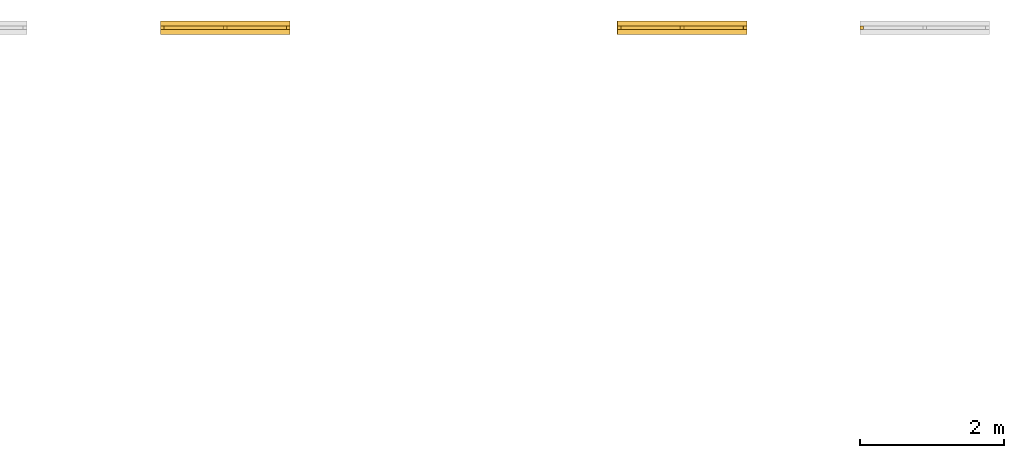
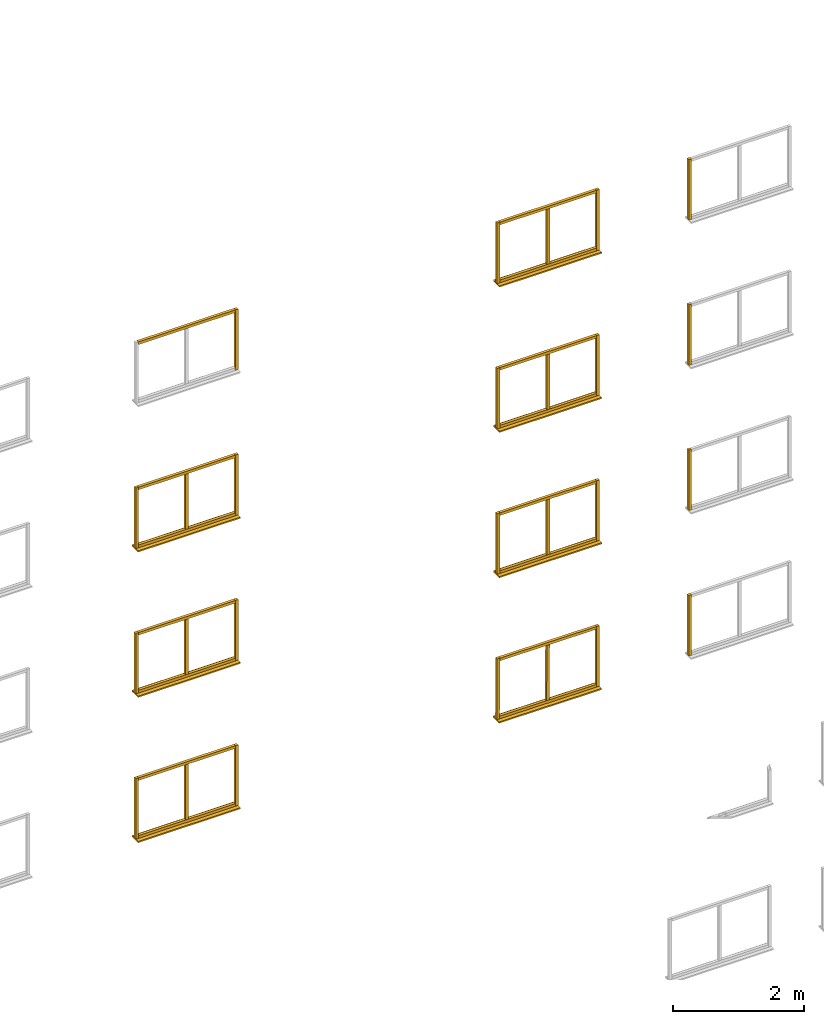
# Not in any storey, part 9 of 22: 48 windows.
"""IFC2X3 model written with IfcOpenShell, lengths in metres."""

import ifcopenshell
import ifcopenshell.guid

model = None  # the IFC model being written
_history = None  # IfcOwnerHistory: only IFC2X3 demands one
_inside = {}  # id of a spatial element -> (the spatial element, [elements in it])
_under = {}  # id of a project, library or spatial element -> (it, [spatial elements below it])
_declared = {}  # id of a project -> (the project, [libraries it declares])
_typed = {}  # id of a type object -> (the type object, [elements of that type])
_made_of = {}  # id of a material, layer set ... -> (it, [elements and type objects made of it])


def new_model(schema):
    """Start an empty IFC model of exactly this schema.

    Asked for "IFC4X3", IfcOpenShell would pick the latest addendum, in which some entities
    have other attributes; the version numbers below select the first issue.
    IFC2X3 requires an IfcOwnerHistory on every rooted entity: one is made here for all.
    """
    global model, _history
    if schema == "IFC4X3":
        model = ifcopenshell.file(schema_version=(4, 3, 0, 0))
    else:
        model = ifcopenshell.file(schema=schema)
    _inside.clear()
    _under.clear()
    _declared.clear()
    _typed.clear()
    _made_of.clear()
    _history = None
    if model.schema == "IFC2X3":
        org = make("IfcOrganization", Name="unknown")
        user = make(
            "IfcPersonAndOrganization",
            ThePerson=make("IfcPerson", FamilyName="unknown"),
            TheOrganization=org,
        )
        app = make(
            "IfcApplication",
            ApplicationDeveloper=org,
            Version="unknown",
            ApplicationFullName="unknown",
            ApplicationIdentifier="unknown",
        )
        _history = make(
            "IfcOwnerHistory",
            OwningUser=user,
            OwningApplication=app,
            ChangeAction="ADDED",
            CreationDate=0,
        )
    return model


def make(cls, **values):
    """One entity of the class cls with the attributes given. An attribute that is None is left unset."""
    return model.create_entity(
        cls, **{name: value for name, value in values.items() if value is not None}
    )


def rooted(cls, **values):
    """An entity with a GlobalId (a new one), such as an element, a storey or a relation."""
    return make(cls, GlobalId=ifcopenshell.guid.new(), OwnerHistory=_history, **values)


def si_unit(unit_type, name, prefix=None):
    """IfcSIUnit, for example si_unit("LENGTHUNIT", "METRE", prefix="MILLI")."""
    return make("IfcSIUnit", UnitType=unit_type, Prefix=prefix, Name=name)


def assignment(units):
    """IfcUnitAssignment: the units of a project."""
    return None if units is None else make("IfcUnitAssignment", Units=units)


def point(xyz):
    """IfcCartesianPoint."""
    return None if xyz is None else make("IfcCartesianPoint", Coordinates=xyz)


def direction(xyz):
    """IfcDirection."""
    return None if xyz is None else make("IfcDirection", DirectionRatios=xyz)


def frame(location, z_axis=None, x_axis=None):
    """IfcAxis2Placement3D, a coordinate frame: its origin and axes. An axis left out is left unset."""
    return make(
        "IfcAxis2Placement3D",
        Location=point(location),
        Axis=direction(z_axis),
        RefDirection=direction(x_axis),
    )


def origin():
    """The frame at (0, 0, 0) with its axes left unset."""
    return frame((0.0, 0.0, 0.0))


def place(relative_to, where):
    """IfcLocalPlacement: puts the frame where relative to a parent placement (None: the world)."""
    return make(
        "IfcLocalPlacement", PlacementRelTo=relative_to, RelativePlacement=where
    )


def context(
    kind, dimensions, precision=None, world=None, true_north=None, identifier=None
):
    """IfcGeometricRepresentationContext, for example the 3D "Model" context."""
    return make(
        "IfcGeometricRepresentationContext",
        ContextIdentifier=identifier,
        ContextType=kind,
        CoordinateSpaceDimension=dimensions,
        Precision=precision,
        WorldCoordinateSystem=world,
        TrueNorth=true_north,
    )


def project(units=None, contexts=None):
    """IfcProject with its units and contexts."""
    return rooted(
        "IfcProject",
        Name="project",
        RepresentationContexts=contexts,
        UnitsInContext=assignment(units),
    )


def faces_of(points, faces, orient=None, outer=None):
    """IfcFace entities. A face is a list of loops; a loop is a list of indices into points, from 0.

    orient and outer hold one flag for each loop. By default every Orientation is true, the
    first loop of a face is its IfcFaceOuterBound and the others are IfcFaceBound.
    """
    made = []
    for i, loops in enumerate(faces):
        bounds = []
        for j, loop in enumerate(loops):
            is_outer = j == 0 if outer is None else outer[i][j]
            bounds.append(
                make(
                    "IfcFaceOuterBound" if is_outer else "IfcFaceBound",
                    Bound=make("IfcPolyLoop", Polygon=[points[k] for k in loop]),
                    Orientation=True if orient is None else orient[i][j],
                )
            )
        made.append(make("IfcFace", Bounds=bounds))
    return made


def faceted_brep(points, faces, orient=None, outer=None, voids=None):
    """IfcFacetedBrep: a solid bounded by flat faces; with voids (closed shells), ...WithVoids."""
    shared = [point(p) for p in points]
    hull = make("IfcClosedShell", CfsFaces=faces_of(shared, faces, orient, outer))
    if voids is None:
        return make("IfcFacetedBrep", Outer=hull)
    return make(
        "IfcFacetedBrepWithVoids",
        Outer=hull,
        Voids=[
            make(cls, CfsFaces=faces_of(shared, fs, o, b)) for cls, fs, o, b in voids
        ],
    )


def shape(context_of_items, identifier, shape_type, items):
    """IfcShapeRepresentation: the items that make up one representation, for example the "Body"."""
    return make(
        "IfcShapeRepresentation",
        ContextOfItems=context_of_items,
        RepresentationIdentifier=identifier,
        RepresentationType=shape_type,
        Items=items,
    )


def made_of(thing, what):
    """Note that an element or type object is made of a material, layer set ...; save() writes the relation."""
    if what is not None:
        _made_of.setdefault(what.id(), (what, []))[1].append(thing)
    return thing


def element(
    cls,
    number,
    at=None,
    inside=None,
    cuts=None,
    type_object=None,
    material=None,
    context=None,
    identifier="Body",
    shape_type=None,
    held_by="IfcProductDefinitionShape",
    body=None,
    shapes=None,
    **own,
):
    """One element of the class cls, such as IfcWall. Its Tag is "e" and its number.

    at: its placement. inside: the storey or other place that contains it. cuts: it is an
    opening in that element (IfcRelVoidsElement). A single representation is given by context,
    identifier, shape_type and body (its items); several are given by shapes. held_by: the class
    of the entity that holds the representations. save() writes the other relations.
    """
    e = rooted(cls, Tag="e%d" % number, ObjectPlacement=at, **own)
    if body is not None:
        shapes = [shape(context, identifier, shape_type, body)]
    if shapes is not None:
        e.Representation = make(held_by, Representations=shapes)
    if inside is not None:
        _inside.setdefault(inside.id(), (inside, []))[1].append(e)
    if cuts is not None:
        rooted(
            "IfcRelVoidsElement", RelatingBuildingElement=cuts, RelatedOpeningElement=e
        )
    if type_object is not None:
        _typed.setdefault(type_object.id(), (type_object, []))[1].append(e)
    return made_of(e, material)


def aggregate(whole, parts):
    """IfcRelAggregates: a whole, such as a stair, and the parts it consists of."""
    return rooted("IfcRelAggregates", RelatingObject=whole, RelatedObjects=parts)


def save(model, path):
    """Write the relations noted so far, then the file.

    IfcRelAggregates (storeys below a building ...), IfcRelContainedInSpatialStructure (elements
    in a storey), IfcRelDefinesByType, IfcRelAssociatesMaterial and IfcRelDeclares: one each for
    every whole, place, type object, material and project.
    """
    for whole, parts in _under.values():
        aggregate(whole, parts)
    for where, things in _inside.values():
        rooted(
            "IfcRelContainedInSpatialStructure",
            RelatedElements=things,
            RelatingStructure=where,
        )
    for kind, things in _typed.values():
        rooted("IfcRelDefinesByType", RelatedObjects=things, RelatingType=kind)
    for what, things in _made_of.values():
        rooted("IfcRelAssociatesMaterial", RelatedObjects=things, RelatingMaterial=what)
    for by, libraries in _declared.values():
        rooted("IfcRelDeclares", RelatingContext=by, RelatedDefinitions=libraries)
    model.write(path)


model = new_model("IFC2X3")

# Units and contexts
model_context = context("Model", 3, precision=1e-06, world=origin())
ifc_project = project(units=[si_unit("LENGTHUNIT", "METRE"), si_unit("PLANEANGLEUNIT", "RADIAN")], contexts=[model_context])

# Windows
placement = place(None, origin())
window_1_placement = place(placement, frame((19.065401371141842, 10.657077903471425, 9.100000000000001), z_axis=(0.0, 0.0, 1.0), x_axis=(-1.0, 0.0, 0.0)))
element("IfcWindow", 1, at=window_1_placement, Name="windowSill", context=model_context, shape_type="Brep", body=[
    faceted_brep([(0.0, 0.186999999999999, 0.0), (1.8, 0.186999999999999, 0.0), (1.8, 0.0, 0.0), (0.0, 0.0, 0.0), (1.8, 0.0, 0.025), (1.8, 0.186999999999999, 0.025), (0.0, 0.186999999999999, 0.025), (0.0, 0.0, 0.025), (0.0, 0.186999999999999, 0.0), (0.0, 0.0, 0.0), (0.0, 0.0, 0.025), (0.0, 0.186999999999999, 0.025), (1.8, 0.186999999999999, 0.0), (0.0, 0.186999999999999, 0.0), (0.0, 0.186999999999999, 0.025), (1.8, 0.186999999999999, 0.025), (1.8, 0.0, 0.0), (1.8, 0.186999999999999, 0.0), (1.8, 0.186999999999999, 0.025), (1.8, 0.0, 0.025), (0.0, 0.0, 0.0), (1.8, 0.0, 0.0), (1.8, 0.0, 0.025), (0.0, 0.0, 0.025)], [[[0, 1, 2, 3]], [[4, 5, 6, 7]], [[8, 9, 10, 11]], [[12, 13, 14, 15]], [[16, 17, 18, 19]], [[20, 21, 22, 23]]]),
])
window_2_placement = place(placement, frame((19.065401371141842, 10.588577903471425, 9.125000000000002), z_axis=(0.0, 0.0, 1.0), x_axis=(-1.0, 0.0, 0.0)))
element("IfcWindow", 2, at=window_2_placement, Name="leftFrame", context=model_context, shape_type="Brep", body=[
    faceted_brep([(0.0, 0.05, 0.0), (0.05, 0.05, 0.0), (0.05, 0.0, 0.0), (0.0, 0.0, 0.0), (0.05, 0.0, 1.125), (0.05, 0.05, 1.125), (0.0, 0.05, 1.125), (0.0, 0.0, 1.125), (0.0, 0.05, 0.0), (0.0, 0.0, 0.0), (0.0, 0.0, 1.125), (0.0, 0.05, 1.125), (0.05, 0.05, 0.0), (0.0, 0.05, 0.0), (0.0, 0.05, 1.125), (0.05, 0.05, 1.125), (0.05, 0.0, 0.0), (0.05, 0.05, 0.0), (0.05, 0.05, 1.125), (0.05, 0.0, 1.125), (0.0, 0.0, 0.0), (0.05, 0.0, 0.0), (0.05, 0.0, 1.125), (0.0, 0.0, 1.125)], [[[0, 1, 2, 3]], [[4, 5, 6, 7]], [[8, 9, 10, 11]], [[12, 13, 14, 15]], [[16, 17, 18, 19]], [[20, 21, 22, 23]]]),
])
window_3_placement = place(placement, frame((19.01540137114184, 10.588577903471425, 9.125000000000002), z_axis=(0.0, 0.0, 1.0), x_axis=(-1.0, 0.0, 0.0)))
element("IfcWindow", 3, at=window_3_placement, Name="bottomFrame", context=model_context, shape_type="Brep", body=[
    faceted_brep([(0.0, 0.05, 0.0), (1.7, 0.05, 0.0), (1.7, 0.0, 0.0), (0.0, 0.0, 0.0), (1.7, 0.0, 0.05), (1.7, 0.05, 0.05), (0.0, 0.05, 0.05), (0.0, 0.0, 0.05), (0.0, 0.05, 0.0), (0.0, 0.0, 0.0), (0.0, 0.0, 0.05), (0.0, 0.05, 0.05), (1.7, 0.05, 0.0), (0.0, 0.05, 0.0), (0.0, 0.05, 0.05), (1.7, 0.05, 0.05), (1.7, 0.0, 0.0), (1.7, 0.05, 0.0), (1.7, 0.05, 0.05), (1.7, 0.0, 0.05), (0.0, 0.0, 0.0), (1.7, 0.0, 0.0), (1.7, 0.0, 0.05), (0.0, 0.0, 0.05)], [[[0, 1, 2, 3]], [[4, 5, 6, 7]], [[8, 9, 10, 11]], [[12, 13, 14, 15]], [[16, 17, 18, 19]], [[20, 21, 22, 23]]]),
])
for number, where, z_axis, x_axis, name in (
    (4, (17.315401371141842, 10.588577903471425, 9.125000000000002), (0.0, 0.0, 1.0), (-1.0, 0.0, 0.0), "rightFrame"),
    (5, (20.68540137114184, 10.588577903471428, 9.125000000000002), (0.0, 0.0, 1.0), (-1.0, 0.0, 0.0), "rightFrame"),
    (6, (12.714598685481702, 10.588577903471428, 9.125000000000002), (0.0, 0.0, 1.0), (-1.0, 0.0, 0.0), "leftFrame"),
):
    element("IfcWindow", number, at=place(placement, frame(where, z_axis=z_axis, x_axis=x_axis)), Name=name, context=model_context, shape_type="Brep", body=[
        faceted_brep([(0.0, 0.05, 0.0), (0.05, 0.05, 0.0), (0.05, 0.0, 0.0), (0.0, 0.0, 0.0), (0.05, 0.0, 1.125), (0.05, 0.05, 1.125), (0.0, 0.05, 1.125), (0.0, 0.0, 1.125), (0.0, 0.05, 0.0), (0.0, 0.0, 0.0), (0.0, 0.0, 1.125), (0.0, 0.05, 1.125), (0.05, 0.05, 0.0), (0.0, 0.05, 0.0), (0.0, 0.05, 1.125), (0.05, 0.05, 1.125), (0.05, 0.0, 0.0), (0.05, 0.05, 0.0), (0.05, 0.05, 1.125), (0.05, 0.0, 1.125), (0.0, 0.0, 0.0), (0.05, 0.0, 0.0), (0.05, 0.0, 1.125), (0.0, 0.0, 1.125)], [[[0, 1, 2, 3]], [[4, 5, 6, 7]], [[8, 9, 10, 11]], [[12, 13, 14, 15]], [[16, 17, 18, 19]], [[20, 21, 22, 23]]]),
    ])
for number, where, z_axis, x_axis, name in (
    (7, (19.01540137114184, 10.588577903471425, 10.200000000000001), (0.0, 0.0, 1.0), (-1.0, 0.0, 0.0), "topFrame"),
    (8, (19.01540137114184, 10.588577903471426, 7.5), (0.0, 0.0, 1.0), (-1.0, 0.0, 0.0), "topFrame"),
    (9, (12.664598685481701, 10.588577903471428, 10.200000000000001), (0.0, 0.0, 1.0), (-1.0, 0.0, 0.0), "topFrame"),
    (10, (12.664598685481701, 10.588577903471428, 4.8), (0.0, 0.0, 1.0), (-1.0, 0.0, 0.0), "topFrame"),
):
    element("IfcWindow", number, at=place(placement, frame(where, z_axis=z_axis, x_axis=x_axis)), Name=name, context=model_context, shape_type="Brep", body=[
        faceted_brep([(0.0, 0.05, 0.0), (1.7, 0.05, 0.0), (1.7, 0.0, 0.0), (0.0, 0.0, 0.0), (1.7, 0.0, 0.05), (1.7, 0.05, 0.05), (0.0, 0.05, 0.05), (0.0, 0.0, 0.05), (0.0, 0.05, 0.0), (0.0, 0.0, 0.0), (0.0, 0.0, 0.05), (0.0, 0.05, 0.05), (1.7, 0.05, 0.0), (0.0, 0.05, 0.0), (0.0, 0.05, 0.05), (1.7, 0.05, 0.05), (1.7, 0.0, 0.0), (1.7, 0.05, 0.0), (1.7, 0.05, 0.05), (1.7, 0.0, 0.05), (0.0, 0.0, 0.0), (1.7, 0.0, 0.0), (1.7, 0.0, 0.05), (0.0, 0.0, 0.05)], [[[0, 1, 2, 3]], [[4, 5, 6, 7]], [[8, 9, 10, 11]], [[12, 13, 14, 15]], [[16, 17, 18, 19]], [[20, 21, 22, 23]]]),
    ])
window_4_placement = place(placement, frame((20.68540137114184, 10.588577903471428, 3.725), z_axis=(0.0, 0.0, 1.0), x_axis=(-1.0, 0.0, 0.0)))
element("IfcWindow", 11, at=window_4_placement, Name="rightFrame", context=model_context, shape_type="Brep", body=[
    faceted_brep([(0.0, 0.05, 0.0), (0.05, 0.05, 0.0), (0.05, 0.0, 0.0), (0.0, 0.0, 0.0), (0.05, 0.0, 1.125), (0.05, 0.05, 1.125), (0.0, 0.05, 1.125), (0.0, 0.0, 1.125), (0.0, 0.05, 0.0), (0.0, 0.0, 0.0), (0.0, 0.0, 1.125), (0.0, 0.05, 1.125), (0.05, 0.05, 0.0), (0.0, 0.05, 0.0), (0.0, 0.05, 1.125), (0.05, 0.05, 1.125), (0.05, 0.0, 0.0), (0.05, 0.05, 0.0), (0.05, 0.05, 1.125), (0.05, 0.0, 1.125), (0.0, 0.0, 0.0), (0.05, 0.0, 0.0), (0.05, 0.0, 1.125), (0.0, 0.0, 1.125)], [[[0, 1, 2, 3]], [[4, 5, 6, 7]], [[8, 9, 10, 11]], [[12, 13, 14, 15]], [[16, 17, 18, 19]], [[20, 21, 22, 23]]]),
])
window_5_placement = place(placement, frame((19.01540137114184, 10.588577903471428, 4.8), z_axis=(0.0, 0.0, 1.0), x_axis=(-1.0, 0.0, 0.0)))
element("IfcWindow", 12, at=window_5_placement, Name="topFrame", context=model_context, shape_type="Brep", body=[
    faceted_brep([(0.0, 0.05, 0.0), (1.7, 0.05, 0.0), (1.7, 0.0, 0.0), (0.0, 0.0, 0.0), (1.7, 0.0, 0.05), (1.7, 0.05, 0.05), (0.0, 0.05, 0.05), (0.0, 0.0, 0.05), (0.0, 0.05, 0.0), (0.0, 0.0, 0.0), (0.0, 0.0, 0.05), (0.0, 0.05, 0.05), (1.7, 0.05, 0.0), (0.0, 0.05, 0.0), (0.0, 0.05, 0.05), (1.7, 0.05, 0.05), (1.7, 0.0, 0.0), (1.7, 0.05, 0.0), (1.7, 0.05, 0.05), (1.7, 0.0, 0.05), (0.0, 0.0, 0.0), (1.7, 0.0, 0.0), (1.7, 0.0, 0.05), (0.0, 0.0, 0.05)], [[[0, 1, 2, 3]], [[4, 5, 6, 7]], [[8, 9, 10, 11]], [[12, 13, 14, 15]], [[16, 17, 18, 19]], [[20, 21, 22, 23]]]),
])
window_6_placement = place(placement, frame((12.714598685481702, 10.657077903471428, 1.0), z_axis=(0.0, 0.0, 1.0), x_axis=(-1.0, 0.0, 0.0)))
element("IfcWindow", 13, at=window_6_placement, Name="windowSill", context=model_context, shape_type="Brep", body=[
    faceted_brep([(0.0, 0.187, 0.0), (1.8, 0.187, 0.0), (1.8, 0.0, 0.0), (0.0, 0.0, 0.0), (1.8, 0.0, 0.025), (1.8, 0.187, 0.025), (0.0, 0.187, 0.025), (0.0, 0.0, 0.025), (0.0, 0.187, 0.0), (0.0, 0.0, 0.0), (0.0, 0.0, 0.025), (0.0, 0.187, 0.025), (1.8, 0.187, 0.0), (0.0, 0.187, 0.0), (0.0, 0.187, 0.025), (1.8, 0.187, 0.025), (1.8, 0.0, 0.0), (1.8, 0.187, 0.0), (1.8, 0.187, 0.025), (1.8, 0.0, 0.025), (0.0, 0.0, 0.0), (1.8, 0.0, 0.0), (1.8, 0.0, 0.025), (0.0, 0.0, 0.025)], [[[0, 1, 2, 3]], [[4, 5, 6, 7]], [[8, 9, 10, 11]], [[12, 13, 14, 15]], [[16, 17, 18, 19]], [[20, 21, 22, 23]]]),
])
window_7_placement = place(placement, frame((12.664598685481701, 10.588577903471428, 6.425000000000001), z_axis=(0.0, 0.0, 1.0), x_axis=(-1.0, 0.0, 0.0)))
element("IfcWindow", 14, at=window_7_placement, Name="bottomFrame", context=model_context, shape_type="Brep", body=[
    faceted_brep([(0.0, 0.05, 0.0), (1.7, 0.05, 0.0), (1.7, 0.0, 0.0), (0.0, 0.0, 0.0), (1.7, 0.0, 0.05), (1.7, 0.05, 0.05), (0.0, 0.05, 0.05), (0.0, 0.0, 0.05), (0.0, 0.05, 0.0), (0.0, 0.0, 0.0), (0.0, 0.0, 0.05), (0.0, 0.05, 0.05), (1.7, 0.05, 0.0), (0.0, 0.05, 0.0), (0.0, 0.05, 0.05), (1.7, 0.05, 0.05), (1.7, 0.0, 0.0), (1.7, 0.05, 0.0), (1.7, 0.05, 0.05), (1.7, 0.0, 0.05), (0.0, 0.0, 0.0), (1.7, 0.0, 0.0), (1.7, 0.0, 0.05), (0.0, 0.0, 0.05)], [[[0, 1, 2, 3]], [[4, 5, 6, 7]], [[8, 9, 10, 11]], [[12, 13, 14, 15]], [[16, 17, 18, 19]], [[20, 21, 22, 23]]]),
])
window_8_placement = place(placement, frame((10.964598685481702, 10.588577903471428, 6.425000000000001), z_axis=(0.0, 0.0, 1.0), x_axis=(-1.0, 0.0, 0.0)))
element("IfcWindow", 15, at=window_8_placement, Name="rightFrame", context=model_context, shape_type="Brep", body=[
    faceted_brep([(0.0, 0.05, 0.0), (0.05, 0.05, 0.0), (0.05, 0.0, 0.0), (0.0, 0.0, 0.0), (0.05, 0.0, 1.125), (0.05, 0.05, 1.125), (0.0, 0.05, 1.125), (0.0, 0.0, 1.125), (0.0, 0.05, 0.0), (0.0, 0.0, 0.0), (0.0, 0.0, 1.125), (0.0, 0.05, 1.125), (0.05, 0.05, 0.0), (0.0, 0.05, 0.0), (0.0, 0.05, 1.125), (0.05, 0.05, 1.125), (0.05, 0.0, 0.0), (0.05, 0.05, 0.0), (0.05, 0.05, 1.125), (0.05, 0.0, 1.125), (0.0, 0.0, 0.0), (0.05, 0.0, 0.0), (0.05, 0.0, 1.125), (0.0, 0.0, 1.125)], [[[0, 1, 2, 3]], [[4, 5, 6, 7]], [[8, 9, 10, 11]], [[12, 13, 14, 15]], [[16, 17, 18, 19]], [[20, 21, 22, 23]]]),
])
window_9_placement = place(placement, frame((12.714598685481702, 10.657077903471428, 6.4), z_axis=(0.0, 0.0, 1.0), x_axis=(-1.0, 0.0, 0.0)))
element("IfcWindow", 16, at=window_9_placement, Name="windowSill", context=model_context, shape_type="Brep", body=[
    faceted_brep([(0.0, 0.187, 0.0), (1.8, 0.187, 0.0), (1.8, 0.0, 0.0), (0.0, 0.0, 0.0), (1.8, 0.0, 0.025), (1.8, 0.187, 0.025), (0.0, 0.187, 0.025), (0.0, 0.0, 0.025), (0.0, 0.187, 0.0), (0.0, 0.0, 0.0), (0.0, 0.0, 0.025), (0.0, 0.187, 0.025), (1.8, 0.187, 0.0), (0.0, 0.187, 0.0), (0.0, 0.187, 0.025), (1.8, 0.187, 0.025), (1.8, 0.0, 0.0), (1.8, 0.187, 0.0), (1.8, 0.187, 0.025), (1.8, 0.0, 0.025), (0.0, 0.0, 0.0), (1.8, 0.0, 0.0), (1.8, 0.0, 0.025), (0.0, 0.0, 0.025)], [[[0, 1, 2, 3]], [[4, 5, 6, 7]], [[8, 9, 10, 11]], [[12, 13, 14, 15]], [[16, 17, 18, 19]], [[20, 21, 22, 23]]]),
])
window_10_placement = place(placement, frame((11.839598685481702, 10.588577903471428, 6.475000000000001), z_axis=(0.0, 0.0, 1.0), x_axis=(-1.0, 0.0, 0.0)))
element("IfcWindow", 17, at=window_10_placement, Name="verticalBar", context=model_context, shape_type="Brep", body=[
    faceted_brep([(0.0, 0.05, 0.0), (0.05, 0.05, 0.0), (0.05, 0.0, 0.0), (0.0, 0.0, 0.0), (0.05, 0.0, 1.025), (0.05, 0.05, 1.025), (0.0, 0.05, 1.025), (0.0, 0.0, 1.025), (0.0, 0.05, 0.0), (0.0, 0.0, 0.0), (0.0, 0.0, 1.025), (0.0, 0.05, 1.025), (0.05, 0.05, 0.0), (0.0, 0.05, 0.0), (0.0, 0.05, 1.025), (0.05, 0.05, 1.025), (0.05, 0.0, 0.0), (0.05, 0.05, 0.0), (0.05, 0.05, 1.025), (0.05, 0.0, 1.025), (0.0, 0.0, 0.0), (0.05, 0.0, 0.0), (0.05, 0.0, 1.025), (0.0, 0.0, 1.025)], [[[0, 1, 2, 3]], [[4, 5, 6, 7]], [[8, 9, 10, 11]], [[12, 13, 14, 15]], [[16, 17, 18, 19]], [[20, 21, 22, 23]]]),
])
window_11_placement = place(placement, frame((12.664598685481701, 10.588577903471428, 7.5), z_axis=(0.0, 0.0, 1.0), x_axis=(-1.0, 0.0, 0.0)))
element("IfcWindow", 18, at=window_11_placement, Name="topFrame", context=model_context, shape_type="Brep", body=[
    faceted_brep([(0.0, 0.05, 0.0), (1.7, 0.05, 0.0), (1.7, 0.0, 0.0), (0.0, 0.0, 0.0), (1.7, 0.0, 0.05), (1.7, 0.05, 0.05), (0.0, 0.05, 0.05), (0.0, 0.0, 0.05), (0.0, 0.05, 0.0), (0.0, 0.0, 0.0), (0.0, 0.0, 0.05), (0.0, 0.05, 0.05), (1.7, 0.05, 0.0), (0.0, 0.05, 0.0), (0.0, 0.05, 0.05), (1.7, 0.05, 0.05), (1.7, 0.0, 0.0), (1.7, 0.05, 0.0), (1.7, 0.05, 0.05), (1.7, 0.0, 0.05), (0.0, 0.0, 0.0), (1.7, 0.0, 0.0), (1.7, 0.0, 0.05), (0.0, 0.0, 0.05)], [[[0, 1, 2, 3]], [[4, 5, 6, 7]], [[8, 9, 10, 11]], [[12, 13, 14, 15]], [[16, 17, 18, 19]], [[20, 21, 22, 23]]]),
])
for number, where, z_axis, x_axis, name in (
    (19, (12.714598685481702, 10.588577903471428, 6.425000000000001), (0.0, 0.0, 1.0), (-1.0, 0.0, 0.0), "leftFrame"),
    (20, (20.68540137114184, 10.588577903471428, 6.425000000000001), (0.0, 0.0, 1.0), (-1.0, 0.0, 0.0), "rightFrame"),
    (21, (17.315401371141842, 10.588577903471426, 6.425000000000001), (0.0, 0.0, 1.0), (-1.0, 0.0, 0.0), "rightFrame"),
):
    element("IfcWindow", number, at=place(placement, frame(where, z_axis=z_axis, x_axis=x_axis)), Name=name, context=model_context, shape_type="Brep", body=[
        faceted_brep([(0.0, 0.05, 0.0), (0.05, 0.05, 0.0), (0.05, 0.0, 0.0), (0.0, 0.0, 0.0), (0.05, 0.0, 1.125), (0.05, 0.05, 1.125), (0.0, 0.05, 1.125), (0.0, 0.0, 1.125), (0.0, 0.05, 0.0), (0.0, 0.0, 0.0), (0.0, 0.0, 1.125), (0.0, 0.05, 1.125), (0.05, 0.05, 0.0), (0.0, 0.05, 0.0), (0.0, 0.05, 1.125), (0.05, 0.05, 1.125), (0.05, 0.0, 0.0), (0.05, 0.05, 0.0), (0.05, 0.05, 1.125), (0.05, 0.0, 1.125), (0.0, 0.0, 0.0), (0.05, 0.0, 0.0), (0.05, 0.0, 1.125), (0.0, 0.0, 1.125)], [[[0, 1, 2, 3]], [[4, 5, 6, 7]], [[8, 9, 10, 11]], [[12, 13, 14, 15]], [[16, 17, 18, 19]], [[20, 21, 22, 23]]]),
    ])
window_12_placement = place(placement, frame((19.01540137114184, 10.588577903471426, 6.425000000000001), z_axis=(0.0, 0.0, 1.0), x_axis=(-1.0, 0.0, 0.0)))
element("IfcWindow", 22, at=window_12_placement, Name="bottomFrame", context=model_context, shape_type="Brep", body=[
    faceted_brep([(0.0, 0.05, 0.0), (1.7, 0.05, 0.0), (1.7, 0.0, 0.0), (0.0, 0.0, 0.0), (1.7, 0.0, 0.05), (1.7, 0.05, 0.05), (0.0, 0.05, 0.05), (0.0, 0.0, 0.05), (0.0, 0.05, 0.0), (0.0, 0.0, 0.0), (0.0, 0.0, 0.05), (0.0, 0.05, 0.05), (1.7, 0.05, 0.0), (0.0, 0.05, 0.0), (0.0, 0.05, 0.05), (1.7, 0.05, 0.05), (1.7, 0.0, 0.0), (1.7, 0.05, 0.0), (1.7, 0.05, 0.05), (1.7, 0.0, 0.05), (0.0, 0.0, 0.0), (1.7, 0.0, 0.0), (1.7, 0.0, 0.05), (0.0, 0.0, 0.05)], [[[0, 1, 2, 3]], [[4, 5, 6, 7]], [[8, 9, 10, 11]], [[12, 13, 14, 15]], [[16, 17, 18, 19]], [[20, 21, 22, 23]]]),
])
window_13_placement = place(placement, frame((19.065401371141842, 10.588577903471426, 6.425000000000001), z_axis=(0.0, 0.0, 1.0), x_axis=(-1.0, 0.0, 0.0)))
element("IfcWindow", 23, at=window_13_placement, Name="leftFrame", context=model_context, shape_type="Brep", body=[
    faceted_brep([(0.0, 0.05, 0.0), (0.05, 0.05, 0.0), (0.05, 0.0, 0.0), (0.0, 0.0, 0.0), (0.05, 0.0, 1.125), (0.05, 0.05, 1.125), (0.0, 0.05, 1.125), (0.0, 0.0, 1.125), (0.0, 0.05, 0.0), (0.0, 0.0, 0.0), (0.0, 0.0, 1.125), (0.0, 0.05, 1.125), (0.05, 0.05, 0.0), (0.0, 0.05, 0.0), (0.0, 0.05, 1.125), (0.05, 0.05, 1.125), (0.05, 0.0, 0.0), (0.05, 0.05, 0.0), (0.05, 0.05, 1.125), (0.05, 0.0, 1.125), (0.0, 0.0, 0.0), (0.05, 0.0, 0.0), (0.05, 0.0, 1.125), (0.0, 0.0, 1.125)], [[[0, 1, 2, 3]], [[4, 5, 6, 7]], [[8, 9, 10, 11]], [[12, 13, 14, 15]], [[16, 17, 18, 19]], [[20, 21, 22, 23]]]),
])
window_14_placement = place(placement, frame((19.065401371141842, 10.657077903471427, 6.4), z_axis=(0.0, 0.0, 1.0), x_axis=(-1.0, 0.0, 0.0)))
element("IfcWindow", 24, at=window_14_placement, Name="windowSill", context=model_context, shape_type="Brep", body=[
    faceted_brep([(0.0, 0.186999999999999, 0.0), (1.8, 0.186999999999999, 0.0), (1.8, 0.0, 0.0), (0.0, 0.0, 0.0), (1.8, 0.0, 0.025), (1.8, 0.186999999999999, 0.025), (0.0, 0.186999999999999, 0.025), (0.0, 0.0, 0.025), (0.0, 0.186999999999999, 0.0), (0.0, 0.0, 0.0), (0.0, 0.0, 0.025), (0.0, 0.186999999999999, 0.025), (1.8, 0.186999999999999, 0.0), (0.0, 0.186999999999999, 0.0), (0.0, 0.186999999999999, 0.025), (1.8, 0.186999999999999, 0.025), (1.8, 0.0, 0.0), (1.8, 0.186999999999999, 0.0), (1.8, 0.186999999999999, 0.025), (1.8, 0.0, 0.025), (0.0, 0.0, 0.0), (1.8, 0.0, 0.0), (1.8, 0.0, 0.025), (0.0, 0.0, 0.025)], [[[0, 1, 2, 3]], [[4, 5, 6, 7]], [[8, 9, 10, 11]], [[12, 13, 14, 15]], [[16, 17, 18, 19]], [[20, 21, 22, 23]]]),
])
window_15_placement = place(placement, frame((18.190401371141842, 10.588577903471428, 3.775), z_axis=(0.0, 0.0, 1.0), x_axis=(-1.0, 0.0, 0.0)))
element("IfcWindow", 25, at=window_15_placement, Name="verticalBar", context=model_context, shape_type="Brep", body=[
    faceted_brep([(0.0, 0.05, 0.0), (0.05, 0.05, 0.0), (0.05, 0.0, 0.0), (0.0, 0.0, 0.0), (0.05, 0.0, 1.025), (0.05, 0.05, 1.025), (0.0, 0.05, 1.025), (0.0, 0.0, 1.025), (0.0, 0.05, 0.0), (0.0, 0.0, 0.0), (0.0, 0.0, 1.025), (0.0, 0.05, 1.025), (0.05, 0.05, 0.0), (0.0, 0.05, 0.0), (0.0, 0.05, 1.025), (0.05, 0.05, 1.025), (0.05, 0.0, 0.0), (0.05, 0.05, 0.0), (0.05, 0.05, 1.025), (0.05, 0.0, 1.025), (0.0, 0.0, 0.0), (0.05, 0.0, 0.0), (0.05, 0.0, 1.025), (0.0, 0.0, 1.025)], [[[0, 1, 2, 3]], [[4, 5, 6, 7]], [[8, 9, 10, 11]], [[12, 13, 14, 15]], [[16, 17, 18, 19]], [[20, 21, 22, 23]]]),
])
window_16_placement = place(placement, frame((19.065401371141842, 10.588577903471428, 3.725), z_axis=(0.0, 0.0, 1.0), x_axis=(-1.0, 0.0, 0.0)))
element("IfcWindow", 26, at=window_16_placement, Name="leftFrame", context=model_context, shape_type="Brep", body=[
    faceted_brep([(0.0, 0.05, 0.0), (0.05, 0.05, 0.0), (0.05, 0.0, 0.0), (0.0, 0.0, 0.0), (0.05, 0.0, 1.125), (0.05, 0.05, 1.125), (0.0, 0.05, 1.125), (0.0, 0.0, 1.125), (0.0, 0.05, 0.0), (0.0, 0.0, 0.0), (0.0, 0.0, 1.125), (0.0, 0.05, 1.125), (0.05, 0.05, 0.0), (0.0, 0.05, 0.0), (0.0, 0.05, 1.125), (0.05, 0.05, 1.125), (0.05, 0.0, 0.0), (0.05, 0.05, 0.0), (0.05, 0.05, 1.125), (0.05, 0.0, 1.125), (0.0, 0.0, 0.0), (0.05, 0.0, 0.0), (0.05, 0.0, 1.125), (0.0, 0.0, 1.125)], [[[0, 1, 2, 3]], [[4, 5, 6, 7]], [[8, 9, 10, 11]], [[12, 13, 14, 15]], [[16, 17, 18, 19]], [[20, 21, 22, 23]]]),
])
window_17_placement = place(placement, frame((19.01540137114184, 10.588577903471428, 3.725), z_axis=(0.0, 0.0, 1.0), x_axis=(-1.0, 0.0, 0.0)))
element("IfcWindow", 27, at=window_17_placement, Name="bottomFrame", context=model_context, shape_type="Brep", body=[
    faceted_brep([(0.0, 0.05, 0.0), (1.7, 0.05, 0.0), (1.7, 0.0, 0.0), (0.0, 0.0, 0.0), (1.7, 0.0, 0.05), (1.7, 0.05, 0.05), (0.0, 0.05, 0.05), (0.0, 0.0, 0.05), (0.0, 0.05, 0.0), (0.0, 0.0, 0.0), (0.0, 0.0, 0.05), (0.0, 0.05, 0.05), (1.7, 0.05, 0.0), (0.0, 0.05, 0.0), (0.0, 0.05, 0.05), (1.7, 0.05, 0.05), (1.7, 0.0, 0.0), (1.7, 0.05, 0.0), (1.7, 0.05, 0.05), (1.7, 0.0, 0.05), (0.0, 0.0, 0.0), (1.7, 0.0, 0.0), (1.7, 0.0, 0.05), (0.0, 0.0, 0.05)], [[[0, 1, 2, 3]], [[4, 5, 6, 7]], [[8, 9, 10, 11]], [[12, 13, 14, 15]], [[16, 17, 18, 19]], [[20, 21, 22, 23]]]),
])
for number, where, z_axis, x_axis, name in (
    (28, (17.315401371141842, 10.588577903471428, 3.725), (0.0, 0.0, 1.0), (-1.0, 0.0, 0.0), "rightFrame"),
    (29, (12.714598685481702, 10.588577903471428, 3.725), (0.0, 0.0, 1.0), (-1.0, 0.0, 0.0), "leftFrame"),
):
    element("IfcWindow", number, at=place(placement, frame(where, z_axis=z_axis, x_axis=x_axis)), Name=name, context=model_context, shape_type="Brep", body=[
        faceted_brep([(0.0, 0.05, 0.0), (0.05, 0.05, 0.0), (0.05, 0.0, 0.0), (0.0, 0.0, 0.0), (0.05, 0.0, 1.125), (0.05, 0.05, 1.125), (0.0, 0.05, 1.125), (0.0, 0.0, 1.125), (0.0, 0.05, 0.0), (0.0, 0.0, 0.0), (0.0, 0.0, 1.125), (0.0, 0.05, 1.125), (0.05, 0.05, 0.0), (0.0, 0.05, 0.0), (0.0, 0.05, 1.125), (0.05, 0.05, 1.125), (0.05, 0.0, 0.0), (0.05, 0.05, 0.0), (0.05, 0.05, 1.125), (0.05, 0.0, 1.125), (0.0, 0.0, 0.0), (0.05, 0.0, 0.0), (0.05, 0.0, 1.125), (0.0, 0.0, 1.125)], [[[0, 1, 2, 3]], [[4, 5, 6, 7]], [[8, 9, 10, 11]], [[12, 13, 14, 15]], [[16, 17, 18, 19]], [[20, 21, 22, 23]]]),
    ])
window_18_placement = place(placement, frame((11.839598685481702, 10.588577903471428, 3.775), z_axis=(0.0, 0.0, 1.0), x_axis=(-1.0, 0.0, 0.0)))
element("IfcWindow", 30, at=window_18_placement, Name="verticalBar", context=model_context, shape_type="Brep", body=[
    faceted_brep([(0.0, 0.05, 0.0), (0.05, 0.05, 0.0), (0.05, 0.0, 0.0), (0.0, 0.0, 0.0), (0.05, 0.0, 1.025), (0.05, 0.05, 1.025), (0.0, 0.05, 1.025), (0.0, 0.0, 1.025), (0.0, 0.05, 0.0), (0.0, 0.0, 0.0), (0.0, 0.0, 1.025), (0.0, 0.05, 1.025), (0.05, 0.05, 0.0), (0.0, 0.05, 0.0), (0.0, 0.05, 1.025), (0.05, 0.05, 1.025), (0.05, 0.0, 0.0), (0.05, 0.05, 0.0), (0.05, 0.05, 1.025), (0.05, 0.0, 1.025), (0.0, 0.0, 0.0), (0.05, 0.0, 0.0), (0.05, 0.0, 1.025), (0.0, 0.0, 1.025)], [[[0, 1, 2, 3]], [[4, 5, 6, 7]], [[8, 9, 10, 11]], [[12, 13, 14, 15]], [[16, 17, 18, 19]], [[20, 21, 22, 23]]]),
])
window_19_placement = place(placement, frame((12.714598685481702, 10.657077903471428, 3.7), z_axis=(0.0, 0.0, 1.0), x_axis=(-1.0, 0.0, 0.0)))
element("IfcWindow", 31, at=window_19_placement, Name="windowSill", context=model_context, shape_type="Brep", body=[
    faceted_brep([(0.0, 0.187, 0.0), (1.8, 0.187, 0.0), (1.8, 0.0, 0.0), (0.0, 0.0, 0.0), (1.8, 0.0, 0.025), (1.8, 0.187, 0.025), (0.0, 0.187, 0.025), (0.0, 0.0, 0.025), (0.0, 0.187, 0.0), (0.0, 0.0, 0.0), (0.0, 0.0, 0.025), (0.0, 0.187, 0.025), (1.8, 0.187, 0.0), (0.0, 0.187, 0.0), (0.0, 0.187, 0.025), (1.8, 0.187, 0.025), (1.8, 0.0, 0.0), (1.8, 0.187, 0.0), (1.8, 0.187, 0.025), (1.8, 0.0, 0.025), (0.0, 0.0, 0.0), (1.8, 0.0, 0.0), (1.8, 0.0, 0.025), (0.0, 0.0, 0.025)], [[[0, 1, 2, 3]], [[4, 5, 6, 7]], [[8, 9, 10, 11]], [[12, 13, 14, 15]], [[16, 17, 18, 19]], [[20, 21, 22, 23]]]),
])
window_20_placement = place(placement, frame((10.964598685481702, 10.588577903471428, 3.725), z_axis=(0.0, 0.0, 1.0), x_axis=(-1.0, 0.0, 0.0)))
element("IfcWindow", 32, at=window_20_placement, Name="rightFrame", context=model_context, shape_type="Brep", body=[
    faceted_brep([(0.0, 0.05, 0.0), (0.05, 0.05, 0.0), (0.05, 0.0, 0.0), (0.0, 0.0, 0.0), (0.05, 0.0, 1.125), (0.05, 0.05, 1.125), (0.0, 0.05, 1.125), (0.0, 0.0, 1.125), (0.0, 0.05, 0.0), (0.0, 0.0, 0.0), (0.0, 0.0, 1.125), (0.0, 0.05, 1.125), (0.05, 0.05, 0.0), (0.0, 0.05, 0.0), (0.0, 0.05, 1.125), (0.05, 0.05, 1.125), (0.05, 0.0, 0.0), (0.05, 0.05, 0.0), (0.05, 0.05, 1.125), (0.05, 0.0, 1.125), (0.0, 0.0, 0.0), (0.05, 0.0, 0.0), (0.05, 0.0, 1.125), (0.0, 0.0, 1.125)], [[[0, 1, 2, 3]], [[4, 5, 6, 7]], [[8, 9, 10, 11]], [[12, 13, 14, 15]], [[16, 17, 18, 19]], [[20, 21, 22, 23]]]),
])
window_21_placement = place(placement, frame((18.190401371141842, 10.588577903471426, 6.475000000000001), z_axis=(0.0, 0.0, 1.0), x_axis=(-1.0, 0.0, 0.0)))
element("IfcWindow", 33, at=window_21_placement, Name="verticalBar", context=model_context, shape_type="Brep", body=[
    faceted_brep([(0.0, 0.05, 0.0), (0.05, 0.05, 0.0), (0.05, 0.0, 0.0), (0.0, 0.0, 0.0), (0.05, 0.0, 1.025), (0.05, 0.05, 1.025), (0.0, 0.05, 1.025), (0.0, 0.0, 1.025), (0.0, 0.05, 0.0), (0.0, 0.0, 0.0), (0.0, 0.0, 1.025), (0.0, 0.05, 1.025), (0.05, 0.05, 0.0), (0.0, 0.05, 0.0), (0.0, 0.05, 1.025), (0.05, 0.05, 1.025), (0.05, 0.0, 0.0), (0.05, 0.05, 0.0), (0.05, 0.05, 1.025), (0.05, 0.0, 1.025), (0.0, 0.0, 0.0), (0.05, 0.0, 0.0), (0.05, 0.0, 1.025), (0.0, 0.0, 1.025)], [[[0, 1, 2, 3]], [[4, 5, 6, 7]], [[8, 9, 10, 11]], [[12, 13, 14, 15]], [[16, 17, 18, 19]], [[20, 21, 22, 23]]]),
])
window_22_placement = place(placement, frame((19.015156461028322, 10.588577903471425, 2.092059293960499), z_axis=(0.004537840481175, 0.0, 0.999989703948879), x_axis=(-0.999989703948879, 0.0, 0.004537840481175)))
element("IfcWindow", 34, at=window_22_placement, Name="topFrame", context=model_context, shape_type="Brep", body=[
    faceted_brep([(0.0, 0.05, 0.0), (1.7, 0.05, 0.0), (1.7, 0.0, 0.0), (0.0, 0.0, 0.0), (1.7, 0.0, 0.05), (1.7, 0.05, 0.05), (0.0, 0.05, 0.05), (0.0, 0.0, 0.05), (0.0, 0.05, 0.0), (0.0, 0.0, 0.0), (0.0, 0.0, 0.05), (0.0, 0.05, 0.05), (1.7, 0.05, 0.0), (0.0, 0.05, 0.0), (0.0, 0.05, 0.05), (1.7, 0.05, 0.05), (1.7, 0.0, 0.0), (1.7, 0.05, 0.0), (1.7, 0.05, 0.05), (1.7, 0.0, 0.05), (0.0, 0.0, 0.0), (1.7, 0.0, 0.0), (1.7, 0.0, 0.05), (0.0, 0.0, 0.05)], [[[0, 1, 2, 3]], [[4, 5, 6, 7]], [[8, 9, 10, 11]], [[12, 13, 14, 15]], [[16, 17, 18, 19]], [[20, 21, 22, 23]]]),
])
for number, where, z_axis, x_axis, name in (
    (35, (20.68540137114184, 10.588577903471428, 1.025), (0.0, 0.0, 1.0), (-1.0, 0.0, 0.0), "rightFrame"),
    (36, (17.310295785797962, 10.588577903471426, 1.024784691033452), (0.004537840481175, 0.0, 0.999989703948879), (-0.999989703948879, 0.0, 0.004537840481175), "rightFrame"),
    (37, (19.060277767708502, 10.588577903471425, 1.016843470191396), (0.004537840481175, 0.0, 0.999989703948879), (-0.999989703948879, 0.0, 0.004537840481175), "leftFrame"),
):
    element("IfcWindow", number, at=place(placement, frame(where, z_axis=z_axis, x_axis=x_axis)), Name=name, context=model_context, shape_type="Brep", body=[
        faceted_brep([(0.0, 0.05, 0.0), (0.05, 0.05, 0.0), (0.05, 0.0, 0.0), (0.0, 0.0, 0.0), (0.05, 0.0, 1.125), (0.05, 0.05, 1.125), (0.0, 0.05, 1.125), (0.0, 0.0, 1.125), (0.0, 0.05, 0.0), (0.0, 0.0, 0.0), (0.0, 0.0, 1.125), (0.0, 0.05, 1.125), (0.05, 0.05, 0.0), (0.0, 0.05, 0.0), (0.0, 0.05, 1.125), (0.05, 0.05, 1.125), (0.05, 0.0, 0.0), (0.05, 0.05, 0.0), (0.05, 0.05, 1.125), (0.05, 0.0, 1.125), (0.0, 0.0, 0.0), (0.05, 0.0, 0.0), (0.05, 0.0, 1.125), (0.0, 0.0, 1.125)], [[[0, 1, 2, 3]], [[4, 5, 6, 7]], [[8, 9, 10, 11]], [[12, 13, 14, 15]], [[16, 17, 18, 19]], [[20, 21, 22, 23]]]),
    ])
window_23_placement = place(placement, frame((19.06016432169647, 10.657077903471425, 0.991843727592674), z_axis=(0.004537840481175, 0.0, 0.999989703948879), x_axis=(-0.999989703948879, 0.0, 0.004537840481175)))
element("IfcWindow", 38, at=window_23_placement, Name="windowSill", context=model_context, shape_type="Brep", body=[
    faceted_brep([(0.0, 0.186999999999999, 0.0), (1.8, 0.186999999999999, 0.0), (1.8, 0.0, 0.0), (0.0, 0.0, 0.0), (1.8, 0.0, 0.025), (1.8, 0.186999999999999, 0.025), (0.0, 0.186999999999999, 0.025), (0.0, 0.0, 0.025), (0.0, 0.186999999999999, 0.0), (0.0, 0.0, 0.0), (0.0, 0.0, 0.025), (0.0, 0.186999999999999, 0.025), (1.8, 0.186999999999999, 0.0), (0.0, 0.186999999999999, 0.0), (0.0, 0.186999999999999, 0.025), (1.8, 0.186999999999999, 0.025), (1.8, 0.0, 0.0), (1.8, 0.186999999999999, 0.0), (1.8, 0.186999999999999, 0.025), (1.8, 0.0, 0.025), (0.0, 0.0, 0.0), (1.8, 0.0, 0.0), (1.8, 0.0, 0.025), (0.0, 0.0, 0.025)], [[[0, 1, 2, 3]], [[4, 5, 6, 7]], [[8, 9, 10, 11]], [[12, 13, 14, 15]], [[16, 17, 18, 19]], [[20, 21, 22, 23]]]),
])
window_24_placement = place(placement, frame((10.964598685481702, 10.588577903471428, 1.025), z_axis=(0.0, 0.0, 1.0), x_axis=(-1.0, 0.0, 0.0)))
element("IfcWindow", 39, at=window_24_placement, Name="rightFrame", context=model_context, shape_type="Brep", body=[
    faceted_brep([(0.0, 0.05, 0.0), (0.05, 0.05, 0.0), (0.05, 0.0, 0.0), (0.0, 0.0, 0.0), (0.05, 0.0, 1.125), (0.05, 0.05, 1.125), (0.0, 0.05, 1.125), (0.0, 0.0, 1.125), (0.0, 0.05, 0.0), (0.0, 0.0, 0.0), (0.0, 0.0, 1.125), (0.0, 0.05, 1.125), (0.05, 0.05, 0.0), (0.0, 0.05, 0.0), (0.0, 0.05, 1.125), (0.05, 0.05, 1.125), (0.05, 0.0, 0.0), (0.05, 0.05, 0.0), (0.05, 0.05, 1.125), (0.05, 0.0, 1.125), (0.0, 0.0, 0.0), (0.05, 0.0, 0.0), (0.05, 0.0, 1.125), (0.0, 0.0, 1.125)], [[[0, 1, 2, 3]], [[4, 5, 6, 7]], [[8, 9, 10, 11]], [[12, 13, 14, 15]], [[16, 17, 18, 19]], [[20, 21, 22, 23]]]),
])
window_25_placement = place(placement, frame((12.664598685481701, 10.588577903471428, 1.025), z_axis=(0.0, 0.0, 1.0), x_axis=(-1.0, 0.0, 0.0)))
element("IfcWindow", 40, at=window_25_placement, Name="bottomFrame", context=model_context, shape_type="Brep", body=[
    faceted_brep([(0.0, 0.05, 0.0), (1.7, 0.05, 0.0), (1.7, 0.0, 0.0), (0.0, 0.0, 0.0), (1.7, 0.0, 0.05), (1.7, 0.05, 0.05), (0.0, 0.05, 0.05), (0.0, 0.0, 0.05), (0.0, 0.05, 0.0), (0.0, 0.0, 0.0), (0.0, 0.0, 0.05), (0.0, 0.05, 0.05), (1.7, 0.05, 0.0), (0.0, 0.05, 0.0), (0.0, 0.05, 0.05), (1.7, 0.05, 0.05), (1.7, 0.0, 0.0), (1.7, 0.05, 0.0), (1.7, 0.05, 0.05), (1.7, 0.0, 0.05), (0.0, 0.0, 0.0), (1.7, 0.0, 0.0), (1.7, 0.0, 0.05), (0.0, 0.0, 0.05)], [[[0, 1, 2, 3]], [[4, 5, 6, 7]], [[8, 9, 10, 11]], [[12, 13, 14, 15]], [[16, 17, 18, 19]], [[20, 21, 22, 23]]]),
])
window_26_placement = place(placement, frame((11.839598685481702, 10.588577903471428, 1.075), z_axis=(0.0, 0.0, 1.0), x_axis=(-1.0, 0.0, 0.0)))
element("IfcWindow", 41, at=window_26_placement, Name="verticalBar", context=model_context, shape_type="Brep", body=[
    faceted_brep([(0.0, 0.05, 0.0), (0.05, 0.05, 0.0), (0.05, 0.0, 0.0), (0.0, 0.0, 0.0), (0.05, 0.0, 1.025), (0.05, 0.05, 1.025), (0.0, 0.05, 1.025), (0.0, 0.0, 1.025), (0.0, 0.05, 0.0), (0.0, 0.0, 0.0), (0.0, 0.0, 1.025), (0.0, 0.05, 1.025), (0.05, 0.05, 0.0), (0.0, 0.05, 0.0), (0.0, 0.05, 1.025), (0.05, 0.05, 1.025), (0.05, 0.0, 0.0), (0.05, 0.05, 0.0), (0.05, 0.05, 1.025), (0.05, 0.0, 1.025), (0.0, 0.0, 0.0), (0.05, 0.0, 0.0), (0.05, 0.0, 1.025), (0.0, 0.0, 1.025)], [[[0, 1, 2, 3]], [[4, 5, 6, 7]], [[8, 9, 10, 11]], [[12, 13, 14, 15]], [[16, 17, 18, 19]], [[20, 21, 22, 23]]]),
])
window_27_placement = place(placement, frame((12.664598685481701, 10.588577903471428, 2.1), z_axis=(0.0, 0.0, 1.0), x_axis=(-1.0, 0.0, 0.0)))
element("IfcWindow", 42, at=window_27_placement, Name="topFrame", context=model_context, shape_type="Brep", body=[
    faceted_brep([(0.0, 0.05, 0.0), (1.7, 0.05, 0.0), (1.7, 0.0, 0.0), (0.0, 0.0, 0.0), (1.7, 0.0, 0.05), (1.7, 0.05, 0.05), (0.0, 0.05, 0.05), (0.0, 0.0, 0.05), (0.0, 0.05, 0.0), (0.0, 0.0, 0.0), (0.0, 0.0, 0.05), (0.0, 0.05, 0.05), (1.7, 0.05, 0.0), (0.0, 0.05, 0.0), (0.0, 0.05, 0.05), (1.7, 0.05, 0.05), (1.7, 0.0, 0.0), (1.7, 0.05, 0.0), (1.7, 0.05, 0.05), (1.7, 0.0, 0.05), (0.0, 0.0, 0.0), (1.7, 0.0, 0.0), (1.7, 0.0, 0.05), (0.0, 0.0, 0.05)], [[[0, 1, 2, 3]], [[4, 5, 6, 7]], [[8, 9, 10, 11]], [[12, 13, 14, 15]], [[16, 17, 18, 19]], [[20, 21, 22, 23]]]),
])
window_28_placement = place(placement, frame((12.714598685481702, 10.588577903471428, 1.025), z_axis=(0.0, 0.0, 1.0), x_axis=(-1.0, 0.0, 0.0)))
element("IfcWindow", 43, at=window_28_placement, Name="leftFrame", context=model_context, shape_type="Brep", body=[
    faceted_brep([(0.0, 0.05, 0.0), (0.05, 0.05, 0.0), (0.05, 0.0, 0.0), (0.0, 0.0, 0.0), (0.05, 0.0, 1.125), (0.05, 0.05, 1.125), (0.0, 0.05, 1.125), (0.0, 0.0, 1.125), (0.0, 0.05, 0.0), (0.0, 0.0, 0.0), (0.0, 0.0, 1.125), (0.0, 0.05, 1.125), (0.05, 0.05, 0.0), (0.0, 0.05, 0.0), (0.0, 0.05, 1.125), (0.05, 0.05, 1.125), (0.05, 0.0, 0.0), (0.05, 0.05, 0.0), (0.05, 0.05, 1.125), (0.05, 0.0, 1.125), (0.0, 0.0, 0.0), (0.05, 0.0, 0.0), (0.05, 0.0, 1.125), (0.0, 0.0, 1.125)], [[[0, 1, 2, 3]], [[4, 5, 6, 7]], [[8, 9, 10, 11]], [[12, 13, 14, 15]], [[16, 17, 18, 19]], [[20, 21, 22, 23]]]),
])
window_29_placement = place(placement, frame((19.065401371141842, 10.657077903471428, 3.7), z_axis=(0.0, 0.0, 1.0), x_axis=(-1.0, 0.0, 0.0)))
element("IfcWindow", 44, at=window_29_placement, Name="windowSill", context=model_context, shape_type="Brep", body=[
    faceted_brep([(0.0, 0.186999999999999, 0.0), (1.8, 0.186999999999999, 0.0), (1.8, 0.0, 0.0), (0.0, 0.0, 0.0), (1.8, 0.0, 0.025), (1.8, 0.186999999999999, 0.025), (0.0, 0.186999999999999, 0.025), (0.0, 0.0, 0.025), (0.0, 0.186999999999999, 0.0), (0.0, 0.0, 0.0), (0.0, 0.0, 0.025), (0.0, 0.186999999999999, 0.025), (1.8, 0.186999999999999, 0.0), (0.0, 0.186999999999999, 0.0), (0.0, 0.186999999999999, 0.025), (1.8, 0.186999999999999, 0.025), (1.8, 0.0, 0.0), (1.8, 0.186999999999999, 0.0), (1.8, 0.186999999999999, 0.025), (1.8, 0.0, 0.025), (0.0, 0.0, 0.0), (1.8, 0.0, 0.0), (1.8, 0.0, 0.025), (0.0, 0.0, 0.025)], [[[0, 1, 2, 3]], [[4, 5, 6, 7]], [[8, 9, 10, 11]], [[12, 13, 14, 15]], [[16, 17, 18, 19]], [[20, 21, 22, 23]]]),
])
window_30_placement = place(placement, frame((19.01027828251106, 10.588577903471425, 1.017070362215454), z_axis=(0.004537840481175, 0.0, 0.999989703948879), x_axis=(-0.999989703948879, 0.0, 0.004537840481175)))
element("IfcWindow", 45, at=window_30_placement, Name="bottomFrame", context=model_context, shape_type="Brep", body=[
    faceted_brep([(0.0, 0.05, 0.0), (1.7, 0.05, 0.0), (1.7, 0.0, 0.0), (0.0, 0.0, 0.0), (1.7, 0.0, 0.05), (1.7, 0.05, 0.05), (0.0, 0.05, 0.05), (0.0, 0.0, 0.05), (0.0, 0.05, 0.0), (0.0, 0.0, 0.0), (0.0, 0.0, 0.05), (0.0, 0.05, 0.05), (1.7, 0.05, 0.0), (0.0, 0.05, 0.0), (0.0, 0.05, 0.05), (1.7, 0.05, 0.05), (1.7, 0.0, 0.0), (1.7, 0.05, 0.0), (1.7, 0.05, 0.05), (1.7, 0.0, 0.05), (0.0, 0.0, 0.0), (1.7, 0.0, 0.0), (1.7, 0.0, 0.05), (0.0, 0.0, 0.05)], [[[0, 1, 2, 3]], [[4, 5, 6, 7]], [[8, 9, 10, 11]], [[12, 13, 14, 15]], [[16, 17, 18, 19]], [[20, 21, 22, 23]]]),
])
window_31_placement = place(placement, frame((18.190401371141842, 10.588577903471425, 9.175), z_axis=(0.0, 0.0, 1.0), x_axis=(-1.0, 0.0, 0.0)))
element("IfcWindow", 46, at=window_31_placement, Name="verticalBar", context=model_context, shape_type="Brep", body=[
    faceted_brep([(0.0, 0.05, 0.0), (0.05, 0.05, 0.0), (0.05, 0.0, 0.0), (0.0, 0.0, 0.0), (0.05, 0.0, 1.025), (0.05, 0.05, 1.025), (0.0, 0.05, 1.025), (0.0, 0.0, 1.025), (0.0, 0.05, 0.0), (0.0, 0.0, 0.0), (0.0, 0.0, 1.025), (0.0, 0.05, 1.025), (0.05, 0.05, 0.0), (0.0, 0.05, 0.0), (0.0, 0.05, 1.025), (0.05, 0.05, 1.025), (0.05, 0.0, 0.0), (0.05, 0.05, 0.0), (0.05, 0.05, 1.025), (0.05, 0.0, 1.025), (0.0, 0.0, 0.0), (0.05, 0.0, 0.0), (0.05, 0.0, 1.025), (0.0, 0.0, 1.025)], [[[0, 1, 2, 3]], [[4, 5, 6, 7]], [[8, 9, 10, 11]], [[12, 13, 14, 15]], [[16, 17, 18, 19]], [[20, 21, 22, 23]]]),
])
window_32_placement = place(placement, frame((12.664598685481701, 10.588577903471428, 3.725), z_axis=(0.0, 0.0, 1.0), x_axis=(-1.0, 0.0, 0.0)))
element("IfcWindow", 47, at=window_32_placement, Name="bottomFrame", context=model_context, shape_type="Brep", body=[
    faceted_brep([(0.0, 0.05, 0.0), (1.7, 0.05, 0.0), (1.7, 0.0, 0.0), (0.0, 0.0, 0.0), (1.7, 0.0, 0.05), (1.7, 0.05, 0.05), (0.0, 0.05, 0.05), (0.0, 0.0, 0.05), (0.0, 0.05, 0.0), (0.0, 0.0, 0.0), (0.0, 0.0, 0.05), (0.0, 0.05, 0.05), (1.7, 0.05, 0.0), (0.0, 0.05, 0.0), (0.0, 0.05, 0.05), (1.7, 0.05, 0.05), (1.7, 0.0, 0.0), (1.7, 0.05, 0.0), (1.7, 0.05, 0.05), (1.7, 0.0, 0.05), (0.0, 0.0, 0.0), (1.7, 0.0, 0.0), (1.7, 0.0, 0.05), (0.0, 0.0, 0.05)], [[[0, 1, 2, 3]], [[4, 5, 6, 7]], [[8, 9, 10, 11]], [[12, 13, 14, 15]], [[16, 17, 18, 19]], [[20, 21, 22, 23]]]),
])
window_33_placement = place(placement, frame((18.185513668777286, 10.588577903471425, 1.070813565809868), z_axis=(0.004537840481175, 0.0, 0.999989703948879), x_axis=(-0.999989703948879, 0.0, 0.004537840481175)))
element("IfcWindow", 48, at=window_33_placement, Name="verticalBar", context=model_context, shape_type="Brep", body=[
    faceted_brep([(0.0, 0.05, 0.0), (0.05, 0.05, 0.0), (0.05, 0.0, 0.0), (0.0, 0.0, 0.0), (0.05, 0.0, 1.025), (0.05, 0.05, 1.025), (0.0, 0.05, 1.025), (0.0, 0.0, 1.025), (0.0, 0.05, 0.0), (0.0, 0.0, 0.0), (0.0, 0.0, 1.025), (0.0, 0.05, 1.025), (0.05, 0.05, 0.0), (0.0, 0.05, 0.0), (0.0, 0.05, 1.025), (0.05, 0.05, 1.025), (0.05, 0.0, 0.0), (0.05, 0.05, 0.0), (0.05, 0.05, 1.025), (0.05, 0.0, 1.025), (0.0, 0.0, 0.0), (0.05, 0.0, 0.0), (0.05, 0.0, 1.025), (0.0, 0.0, 1.025)], [[[0, 1, 2, 3]], [[4, 5, 6, 7]], [[8, 9, 10, 11]], [[12, 13, 14, 15]], [[16, 17, 18, 19]], [[20, 21, 22, 23]]]),
])

save(model, "model.ifc")
